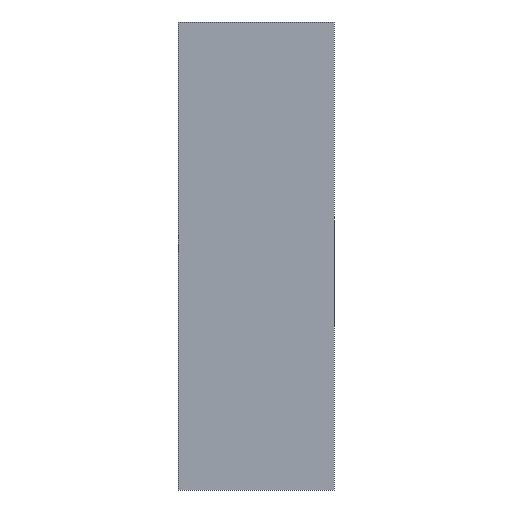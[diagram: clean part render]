
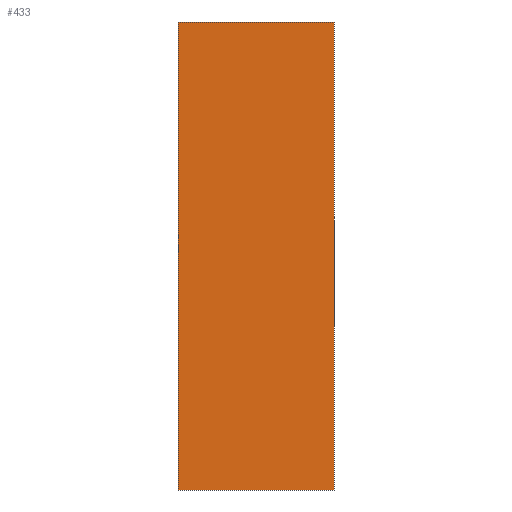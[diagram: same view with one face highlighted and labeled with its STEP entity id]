
A CAD part, front view. The second image highlights one B-rep face of the part: STEP entity #433.
In plain terms, the highlighted planar face has unit normal (0, -1, 0).
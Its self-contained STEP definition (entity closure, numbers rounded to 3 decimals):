
#61=CARTESIAN_POINT('Vertex',(25.,0.,0.)) ;
#77=CARTESIAN_POINT('Vertex',(25.,0.,75.)) ;
#80=CARTESIAN_POINT('Line Origine',(25.,0.,37.5)) ;
#350=CARTESIAN_POINT('Line Origine',(12.5,0.,0.)) ;
#354=CARTESIAN_POINT('Vertex',(0.,0.,0.)) ;
#402=CARTESIAN_POINT('Vertex',(0.,0.,75.)) ;
#405=CARTESIAN_POINT('Line Origine',(12.5,0.,75.)) ;
#417=CARTESIAN_POINT('Axis2P3D Location',(0.,0.,75.)) ;
#422=CARTESIAN_POINT('Line Origine',(0.,0.,37.5)) ;
#81=DIRECTION('Vector Direction',(0.,0.,-1.)) ;
#351=DIRECTION('Vector Direction',(1.,0.,0.)) ;
#406=DIRECTION('Vector Direction',(1.,0.,0.)) ;
#418=DIRECTION('Axis2P3D Direction',(0.,1.,0.)) ;
#419=DIRECTION('Axis2P3D XDirection',(0.,-0.,1.)) ;
#423=DIRECTION('Vector Direction',(0.,0.,-1.)) ;
#420=AXIS2_PLACEMENT_3D('Plane Axis2P3D',#417,#418,#419) ;
#428=ORIENTED_EDGE('',*,*,#356,.T.) ;
#429=ORIENTED_EDGE('',*,*,#84,.F.) ;
#430=ORIENTED_EDGE('',*,*,#409,.F.) ;
#431=ORIENTED_EDGE('',*,*,#426,.T.) ;
#82=VECTOR('Line Direction',#81,1.) ;
#352=VECTOR('Line Direction',#351,1.) ;
#407=VECTOR('Line Direction',#406,1.) ;
#424=VECTOR('Line Direction',#423,1.) ;
#433=ADVANCED_FACE('A612-075-250',(#432),#421,.F.) ;
#84=EDGE_CURVE('',#78,#62,#83,.T.) ;
#356=EDGE_CURVE('',#355,#62,#353,.T.) ;
#409=EDGE_CURVE('',#403,#78,#408,.T.) ;
#426=EDGE_CURVE('',#403,#355,#425,.T.) ;
#427=EDGE_LOOP('',(#428,#429,#430,#431)) ;
#432=FACE_OUTER_BOUND('',#427,.T.) ;
#83=LINE('Line',#80,#82) ;
#353=LINE('Line',#350,#352) ;
#408=LINE('Line',#405,#407) ;
#425=LINE('Line',#422,#424) ;
#421=PLANE('Plane',#420) ;
#62=VERTEX_POINT('',#61) ;
#78=VERTEX_POINT('',#77) ;
#355=VERTEX_POINT('',#354) ;
#403=VERTEX_POINT('',#402) ;
